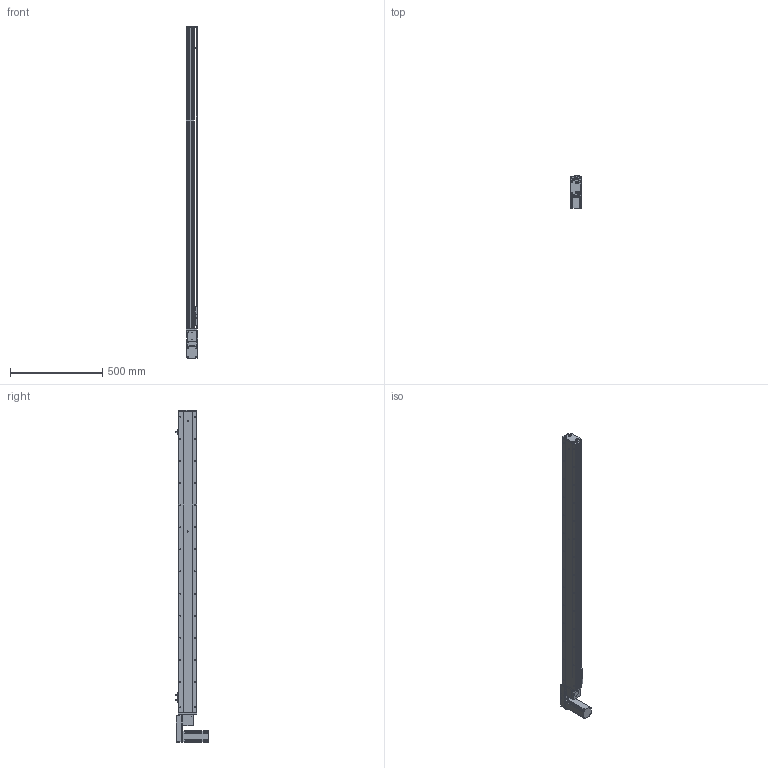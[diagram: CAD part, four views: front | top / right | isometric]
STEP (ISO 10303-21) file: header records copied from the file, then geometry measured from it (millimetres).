
FILE_DESCRIPTION (( 'STEP AP214' ), '1' );
FILE_NAME ('KSD100B-S1450-MLB-CM.STEP', '2019-11-09T06:40:00', ( '微软用户' ), ( '微软中国' ), 'SwSTEP 2.0', 'SolidWorks 2014', '' );
FILE_SCHEMA (( 'AUTOMOTIVE_DESIGN' ));
Length unit declared in the file: millimetre
Products named in the file (12): 悵誘欶奻狟殏; 100宽马达安装板连板上下折丝杆同步带; 台达ECMA－C20604AS伺服电机; U倰嫖萇EEㄜSX672; 覜茼え100遵圉猾敕; 100宽防尘板1450行程-同步带; 100宽马达安装板同步带左; 100宽同步带安装板半封闭; 100宽马达安装板同步带; 100遵傷啣肮祭湍; 100宽底板半封闭同步带1450行程; KSD100B-S1450-MLB-CM
Assembly tree (13 placements, depth 2):
  KSD100B-S1450-MLB-CM
    100宽底板半封闭同步带1450行程
    100遵傷啣肮祭湍
    100宽马达安装板同步带
    100宽同步带安装板半封闭
    100宽马达安装板同步带左
    100宽防尘板1450行程-同步带
    覜茼え100遵圉猾敕
    U倰嫖萇EEㄜSX672  x3
    台达ECMA－C20604AS伺服电机
    100宽马达安装板连板上下折丝杆同步带
    悵誘欶奻狟殏
Bounding box: 61 x 174.7 x 1803 mm (x, y, z)
Volume: 3666094.1 mm3; surface area: 1242953.5 mm2
Topology: 14 solids, 14 shells, 1597 faces, 4520 edges, 2857 vertices
Faces by surface type: cylinder 823, plane 607, cone 167
Entity records: 58053 total; most frequent: CARTESIAN_POINT 12134, DIRECTION 7872, ORIENTED_EDGE 7612, EDGE_CURVE 3806, AXIS2_PLACEMENT_3D 2893, VERTEX_POINT 2481, LINE 2086, VECTOR 2086
